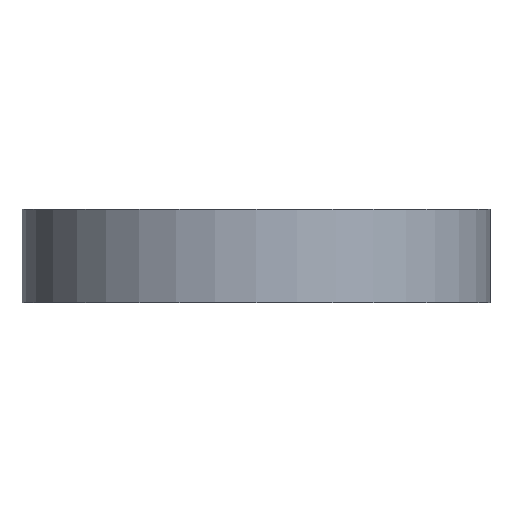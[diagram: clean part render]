
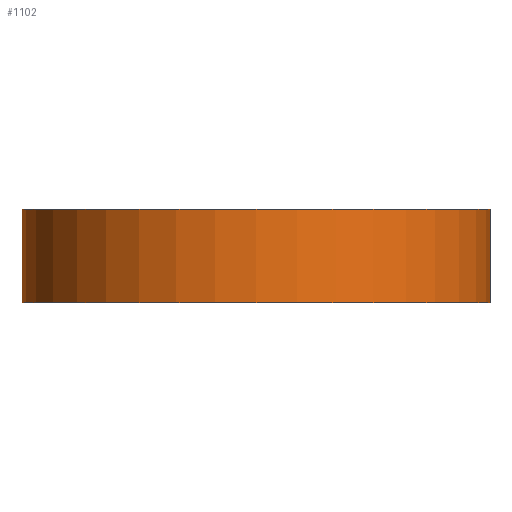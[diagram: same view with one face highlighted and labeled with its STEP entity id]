
A CAD part, front view. The second image highlights one B-rep face of the part: STEP entity #1102.
In plain terms, the highlighted cylindrical face has radius 25 mm (diameter 50 mm), a partial arc.
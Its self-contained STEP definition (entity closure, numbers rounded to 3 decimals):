
#18 = EDGE_LOOP ( 'NONE', ( #521, #1045, #605, #1565 ) ) ;
#56 = CARTESIAN_POINT ( 'NONE',  ( -25., 0., 0. ) ) ;
#131 = DIRECTION ( 'NONE',  ( -1., 0., 0. ) ) ;
#140 = LINE ( 'NONE', #1504, #1768 ) ;
#152 = AXIS2_PLACEMENT_3D ( 'NONE', #1490, #2009, #1666 ) ;
#185 = AXIS2_PLACEMENT_3D ( 'NONE', #695, #1049, #1059 ) ;
#203 = VERTEX_POINT ( 'NONE', #1497 ) ;
#255 = AXIS2_PLACEMENT_3D ( 'NONE', #631, #1668, #131 ) ;
#305 = VERTEX_POINT ( 'NONE', #56 ) ;
#467 = CIRCLE ( 'NONE', #185, 25. ) ;
#493 = CARTESIAN_POINT ( 'NONE',  ( -25., 0., 10. ) ) ;
#521 = ORIENTED_EDGE ( 'NONE', *, *, #1316, .F. ) ;
#522 = CARTESIAN_POINT ( 'NONE',  ( 25., 0., 10. ) ) ;
#605 = ORIENTED_EDGE ( 'NONE', *, *, #1185, .T. ) ;
#631 = CARTESIAN_POINT ( 'NONE',  ( 0., 0., 10. ) ) ;
#695 = CARTESIAN_POINT ( 'NONE',  ( 0., 0., 10. ) ) ;
#698 = DIRECTION ( 'NONE',  ( 0., 0., -1. ) ) ;
#796 = LINE ( 'NONE', #522, #1177 ) ;
#1045 = ORIENTED_EDGE ( 'NONE', *, *, #1787, .F. ) ;
#1049 = DIRECTION ( 'NONE',  ( 0., 0., 1. ) ) ;
#1059 = DIRECTION ( 'NONE',  ( 1., 0., 0. ) ) ;
#1069 = VERTEX_POINT ( 'NONE', #2145 ) ;
#1102 = ADVANCED_FACE ( 'NONE', ( #1491 ), #2189, .T. ) ;
#1177 = VECTOR ( 'NONE', #698, 1000. ) ;
#1185 = EDGE_CURVE ( 'NONE', #1232, #305, #140, .T. ) ;
#1232 = VERTEX_POINT ( 'NONE', #493 ) ;
#1280 = EDGE_CURVE ( 'NONE', #305, #203, #1910, .T. ) ;
#1316 = EDGE_CURVE ( 'NONE', #1069, #203, #796, .T. ) ;
#1490 = CARTESIAN_POINT ( 'NONE',  ( 0., 0., 0. ) ) ;
#1491 = FACE_OUTER_BOUND ( 'NONE', #18, .T. ) ;
#1497 = CARTESIAN_POINT ( 'NONE',  ( 25., 0., 0. ) ) ;
#1504 = CARTESIAN_POINT ( 'NONE',  ( -25., 0., 10. ) ) ;
#1565 = ORIENTED_EDGE ( 'NONE', *, *, #1280, .T. ) ;
#1666 = DIRECTION ( 'NONE',  ( 1., 0., 0. ) ) ;
#1668 = DIRECTION ( 'NONE',  ( 0., 0., -1. ) ) ;
#1768 = VECTOR ( 'NONE', #1856, 1000. ) ;
#1787 = EDGE_CURVE ( 'NONE', #1232, #1069, #467, .T. ) ;
#1856 = DIRECTION ( 'NONE',  ( 0., 0., -1. ) ) ;
#1910 = CIRCLE ( 'NONE', #152, 25. ) ;
#2009 = DIRECTION ( 'NONE',  ( 0., 0., 1. ) ) ;
#2145 = CARTESIAN_POINT ( 'NONE',  ( 25., 0., 10. ) ) ;
#2189 = CYLINDRICAL_SURFACE ( 'NONE', #255, 25. ) ;
